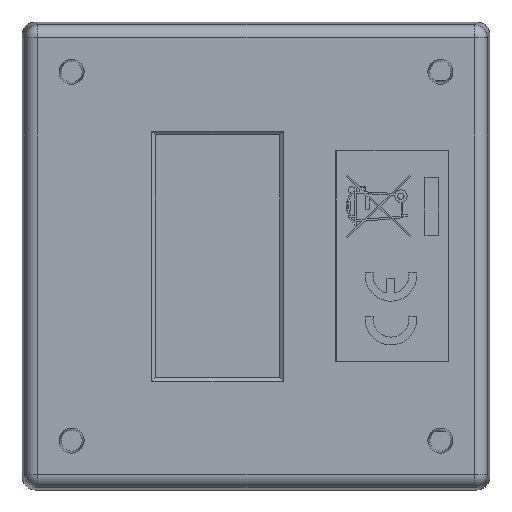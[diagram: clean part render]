
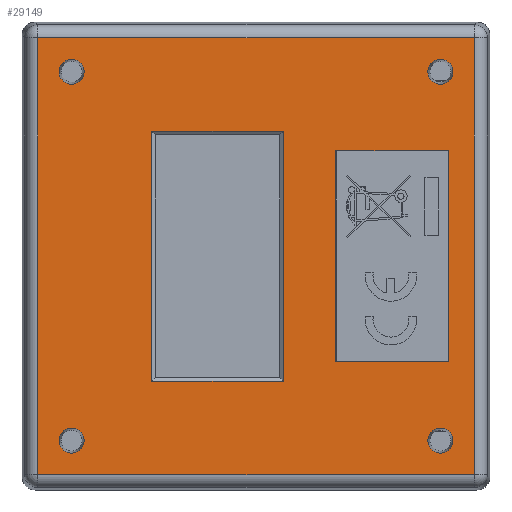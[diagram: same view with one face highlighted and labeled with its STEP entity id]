
A CAD part, front view. The second image highlights one B-rep face of the part: STEP entity #29149.
In plain terms, the highlighted planar face has unit normal (0, -1, 0) as drawn and (0, 0, -1) by its records, which use the part's own axes.
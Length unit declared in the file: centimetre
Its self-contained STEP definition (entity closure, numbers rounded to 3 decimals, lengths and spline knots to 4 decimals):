
#9441=CIRCLE('',#30293,0.1209);
#9442=CIRCLE('',#30294,0.1209);
#9443=CIRCLE('',#30295,0.1209);
#9444=CIRCLE('',#30296,0.1209);
#10651=VERTEX_POINT('',#37680);
#10652=VERTEX_POINT('',#37682);
#10654=VERTEX_POINT('',#37688);
#10656=VERTEX_POINT('',#37694);
#10751=VERTEX_POINT('',#38040);
#10752=VERTEX_POINT('',#38042);
#10754=VERTEX_POINT('',#38048);
#10756=VERTEX_POINT('',#38054);
#10877=VERTEX_POINT('',#39126);
#10878=VERTEX_POINT('',#39128);
#10879=VERTEX_POINT('',#39130);
#10880=VERTEX_POINT('',#39132);
#10881=VERTEX_POINT('',#39134);
#10882=VERTEX_POINT('',#39135);
#10883=VERTEX_POINT('',#39137);
#10884=VERTEX_POINT('',#39139);
#12764=VECTOR('',#32328,1.);
#12767=VECTOR('',#32332,1.);
#12770=VECTOR('',#32336,1.);
#12773=VECTOR('',#32340,1.);
#12903=VECTOR('',#32534,1.);
#12906=VECTOR('',#32538,1.);
#12909=VECTOR('',#32542,1.);
#12912=VECTOR('',#32546,1.);
#13073=VECTOR('',#32779,1.);
#13074=VECTOR('',#32780,1.);
#13075=VECTOR('',#32781,1.);
#13076=VECTOR('',#32782,1.);
#15104=LINE('',#37681,#12764);
#15107=LINE('',#37687,#12767);
#15110=LINE('',#37693,#12770);
#15113=LINE('',#37698,#12773);
#15243=LINE('',#38041,#12903);
#15246=LINE('',#38047,#12906);
#15249=LINE('',#38053,#12909);
#15252=LINE('',#38058,#12912);
#15413=LINE('',#39133,#13073);
#15414=LINE('',#39136,#13074);
#15415=LINE('',#39138,#13075);
#15416=LINE('',#39140,#13076);
#17525=EDGE_CURVE('',#10652,#10651,#15104,.T.);
#17528=EDGE_CURVE('',#10654,#10652,#15107,.T.);
#17531=EDGE_CURVE('',#10656,#10654,#15110,.T.);
#17534=EDGE_CURVE('',#10651,#10656,#15113,.T.);
#17674=EDGE_CURVE('',#10752,#10751,#15243,.F.);
#17677=EDGE_CURVE('',#10754,#10752,#15246,.F.);
#17680=EDGE_CURVE('',#10756,#10754,#15249,.F.);
#17683=EDGE_CURVE('',#10751,#10756,#15252,.F.);
#17864=EDGE_CURVE('',#10877,#10877,#9441,.F.);
#17865=EDGE_CURVE('',#10878,#10878,#9442,.F.);
#17866=EDGE_CURVE('',#10879,#10879,#9443,.F.);
#17867=EDGE_CURVE('',#10880,#10880,#9444,.F.);
#17868=EDGE_CURVE('',#10881,#10882,#15413,.T.);
#17869=EDGE_CURVE('',#10883,#10881,#15414,.T.);
#17870=EDGE_CURVE('',#10884,#10883,#15415,.T.);
#17871=EDGE_CURVE('',#10882,#10884,#15416,.T.);
#21769=ORIENTED_EDGE('',*,*,#17525,.T.);
#21770=ORIENTED_EDGE('',*,*,#17534,.T.);
#21771=ORIENTED_EDGE('',*,*,#17531,.T.);
#21772=ORIENTED_EDGE('',*,*,#17528,.T.);
#21773=ORIENTED_EDGE('',*,*,#17864,.T.);
#21774=ORIENTED_EDGE('',*,*,#17865,.T.);
#21775=ORIENTED_EDGE('',*,*,#17866,.T.);
#21776=ORIENTED_EDGE('',*,*,#17867,.T.);
#21777=ORIENTED_EDGE('',*,*,#17868,.F.);
#21778=ORIENTED_EDGE('',*,*,#17869,.F.);
#21779=ORIENTED_EDGE('',*,*,#17870,.F.);
#21780=ORIENTED_EDGE('',*,*,#17871,.F.);
#21781=ORIENTED_EDGE('',*,*,#17674,.T.);
#21782=ORIENTED_EDGE('',*,*,#17683,.T.);
#21783=ORIENTED_EDGE('',*,*,#17680,.T.);
#21784=ORIENTED_EDGE('',*,*,#17677,.T.);
#26647=EDGE_LOOP('',(#21769,#21770,#21771,#21772));
#26648=EDGE_LOOP('',(#21773));
#26649=EDGE_LOOP('',(#21774));
#26650=EDGE_LOOP('',(#21775));
#26651=EDGE_LOOP('',(#21776));
#26652=EDGE_LOOP('',(#21777,#21778,#21779,#21780));
#26653=EDGE_LOOP('',(#21781,#21782,#21783,#21784));
#27909=FACE_BOUND('',#26647,.T.);
#27910=FACE_BOUND('',#26648,.T.);
#27911=FACE_BOUND('',#26649,.T.);
#27912=FACE_BOUND('',#26650,.T.);
#27913=FACE_BOUND('',#26651,.T.);
#27914=FACE_BOUND('',#26652,.T.);
#27915=FACE_BOUND('',#26653,.T.);
#29149=ADVANCED_FACE('',(#27909,#27910,#27911,#27912,#27913,#27914,#27915),
#46674,.F.);
#30292=AXIS2_PLACEMENT_3D('',#39124,#32770,$);
#30293=AXIS2_PLACEMENT_3D('',#39125,#32771,#32772);
#30294=AXIS2_PLACEMENT_3D('',#39127,#32773,#32774);
#30295=AXIS2_PLACEMENT_3D('',#39129,#32775,#32776);
#30296=AXIS2_PLACEMENT_3D('',#39131,#32777,#32778);
#32328=DIRECTION('',(1.,0.,0.));
#32332=DIRECTION('',(0.,-1.,0.));
#32336=DIRECTION('',(-1.,0.,0.));
#32340=DIRECTION('',(0.,1.,0.));
#32534=DIRECTION('',(-1.,0.,0.));
#32538=DIRECTION('',(0.,1.,0.));
#32542=DIRECTION('',(1.,0.,0.));
#32546=DIRECTION('',(0.,-1.,0.));
#32770=DIRECTION('',(0.,0.,1.));
#32771=DIRECTION('',(0.,0.,-1.));
#32772=DIRECTION('',(-0.121,0.,0.));
#32773=DIRECTION('',(0.,0.,-1.));
#32774=DIRECTION('',(-0.121,0.,0.));
#32775=DIRECTION('',(0.,0.,-1.));
#32776=DIRECTION('',(-0.121,0.,0.));
#32777=DIRECTION('',(0.,0.,-1.));
#32778=DIRECTION('',(-0.121,0.,0.));
#32779=DIRECTION('',(-1.,0.,0.));
#32780=DIRECTION('',(0.,1.,0.));
#32781=DIRECTION('',(1.,0.,0.));
#32782=DIRECTION('',(0.,-1.,0.));
#37680=CARTESIAN_POINT('',(1.2065,-0.2639,-0.0032));
#37681=CARTESIAN_POINT('',(0.6033,-0.2639,-0.0032));
#37682=CARTESIAN_POINT('',(-1.2065,-0.2639,-0.0032));
#37687=CARTESIAN_POINT('',(-1.2065,-0.1319,-0.0032));
#37688=CARTESIAN_POINT('',(-1.2065,1.0061,-0.0032));
#37693=CARTESIAN_POINT('',(-0.6032,1.0061,-0.0032));
#37694=CARTESIAN_POINT('',(1.2065,1.0061,-0.0032));
#37698=CARTESIAN_POINT('',(1.2065,0.5031,-0.0032));
#38040=CARTESIAN_POINT('',(1.0178,-1.8531,-0.0032));
#38041=CARTESIAN_POINT('',(0.,-1.8531,-0.0032));
#38042=CARTESIAN_POINT('',(-1.0178,-1.8531,-0.0032));
#38047=CARTESIAN_POINT('',(-1.0178,-0.3279,-0.0032));
#38048=CARTESIAN_POINT('',(-1.0178,-0.7701,-0.0032));
#38053=CARTESIAN_POINT('',(0.,-0.7701,-0.0032));
#38054=CARTESIAN_POINT('',(1.0178,-0.7701,-0.0032));
#38058=CARTESIAN_POINT('',(1.0178,-0.3279,-0.0032));
#39124=CARTESIAN_POINT('',(0.,0.,-0.0032));
#39125=CARTESIAN_POINT('',(1.778,1.778,-0.0032));
#39126=CARTESIAN_POINT('',(1.8989,1.778,-0.0032));
#39127=CARTESIAN_POINT('',(1.778,-1.778,-0.0032));
#39128=CARTESIAN_POINT('',(1.8989,-1.778,-0.0032));
#39129=CARTESIAN_POINT('',(-1.778,-1.778,-0.0032));
#39130=CARTESIAN_POINT('',(-1.6571,-1.778,-0.0032));
#39131=CARTESIAN_POINT('',(-1.778,1.778,-0.0032));
#39132=CARTESIAN_POINT('',(-1.6571,1.778,-0.0032));
#39133=CARTESIAN_POINT('',(0.,2.1054,-0.0032));
#39134=CARTESIAN_POINT('',(2.1054,2.1054,-0.0032));
#39135=CARTESIAN_POINT('',(-2.1054,2.1054,-0.0032));
#39136=CARTESIAN_POINT('',(2.1054,0.,-0.0032));
#39137=CARTESIAN_POINT('',(2.1054,-2.1054,-0.0032));
#39138=CARTESIAN_POINT('',(0.,-2.1054,-0.0032));
#39139=CARTESIAN_POINT('',(-2.1054,-2.1054,-0.0032));
#39140=CARTESIAN_POINT('',(-2.1054,0.,-0.0032));
#46674=PLANE('',#30292);
